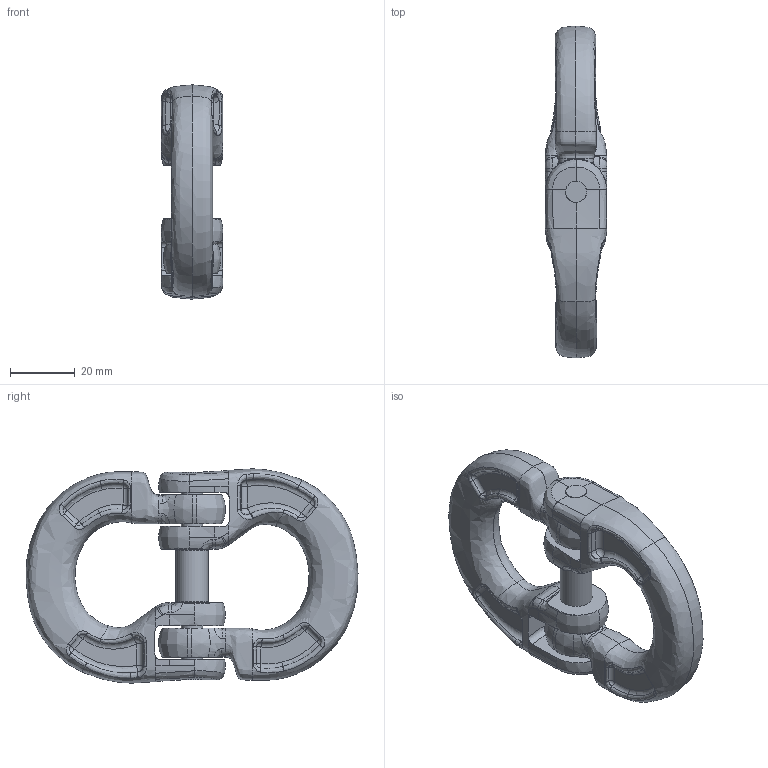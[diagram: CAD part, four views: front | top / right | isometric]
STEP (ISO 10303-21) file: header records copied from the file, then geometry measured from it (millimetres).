
FILE_DESCRIPTION(/* description */ (''),/* implementation_level */ '2;1');
FILE_NAME(/* name */ 'CW 10 Kundenmodell',/* time_stamp */ '2010-01-04T12:00:16+01:00',/* author */ (''),/* organization */ (''),/* preprocessor_version */ 'ST-DEVELOPER v9',/* originating_system */ 'UGS - NX 4.0',/* authorisation */ '');
FILE_SCHEMA (('AUTOMOTIVE_DESIGN { 1 0 10303 214 1 1 1 1 }'));
Length unit declared in the file: millimetre
Products named in the file (1): rit4701pwb6
Bounding box: 19.08 x 102.44 x 66.14 mm (x, y, z)
Volume: 48399.6 mm3; surface area: 19225.9 mm2
Topology: 4 solids, 4 shells, 373 faces, 920 edges, 525 vertices
Faces by surface type: bspline 176, plane 54, cylinder 51, sphere 36, torus 32, cone 24
Full cylindrical faces by diameter (mm): 6.5 x8, 10 x1
Entity records: 27226 total; most frequent: CARTESIAN_POINT 20170, ORIENTED_EDGE 1744, DIRECTION 1040, EDGE_CURVE 872, VERTEX_POINT 518, B_SPLINE_CURVE_WITH_KNOTS 484, AXIS2_PLACEMENT_3D 470, EDGE_LOOP 398
